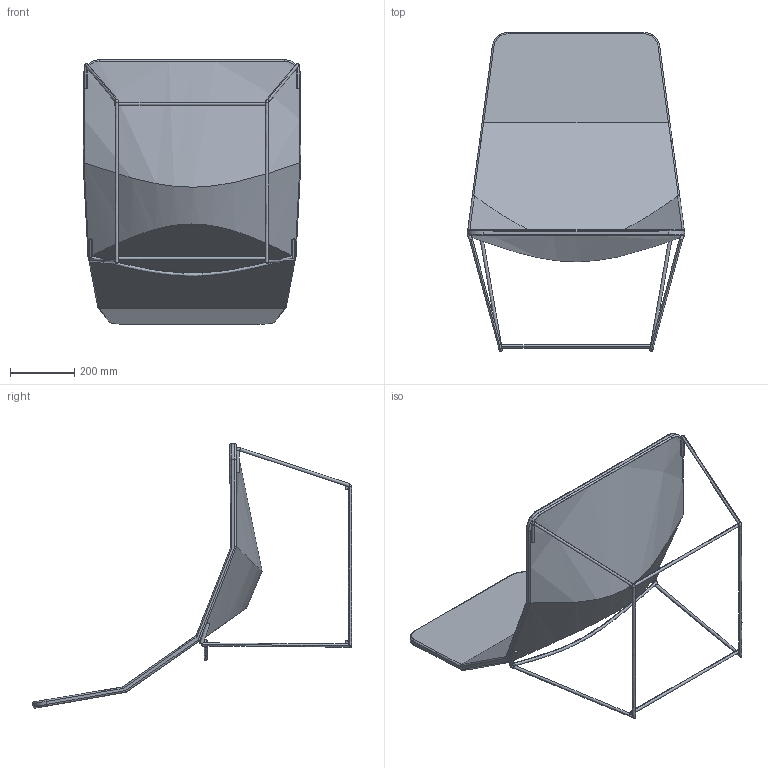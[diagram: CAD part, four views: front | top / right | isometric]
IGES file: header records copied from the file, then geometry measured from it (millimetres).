
Start section: SolidWorks IGES file using NURBS representation for surfaces
Global section: file name: G:\VICCARBE\PRODUCTOS\FAMILIAS 2D - 3D (PRODUCTOS VICCARBE)\3D (IGES + STL + DWG)\06-ACE\01-IGES\VICCARBE_Ace.igs; native system: SolidWorks 2009; preprocessor: SolidWorks 2009; author: RUBEN; date: 110901.123801; units: millimetre
Bounding box: 679.01 x 994.8 x 824.22 mm (x, y, z)
Surface area: 1774459.2 mm2 (no closed solid volume)
Topology: 0 solids, 0 shells, 85 faces, 1393 edges, 1383 vertices
Faces by surface type: bspline 85
